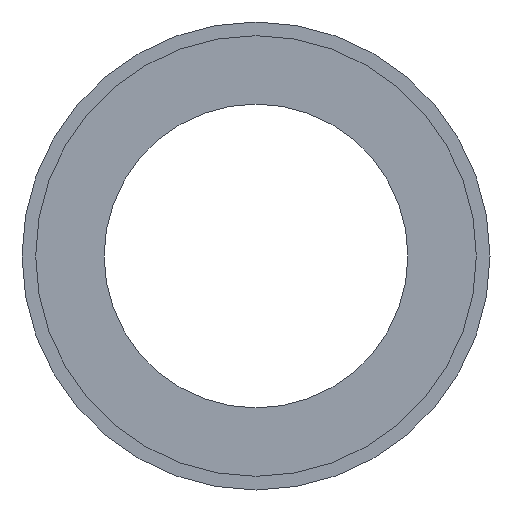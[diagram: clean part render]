
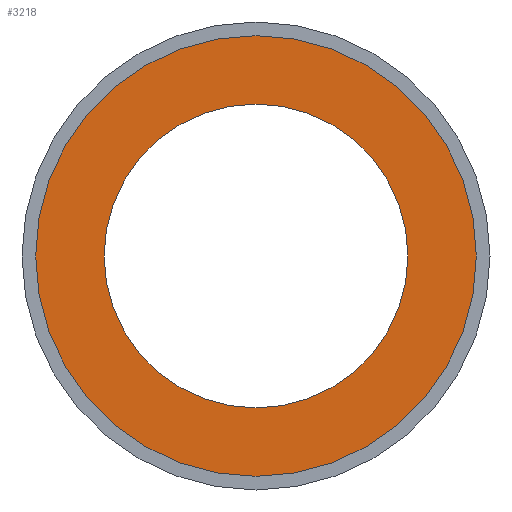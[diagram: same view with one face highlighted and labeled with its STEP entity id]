
A CAD part, front view. The second image highlights one B-rep face of the part: STEP entity #3218.
In plain terms, the highlighted planar face has unit normal (0, -1, 0).
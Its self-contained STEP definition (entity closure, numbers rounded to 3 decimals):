
#83 = DIRECTION ( 'NONE',  ( 0., 0., -1. ) ) ;
#109 = AXIS2_PLACEMENT_3D ( 'NONE', #2482, #1340, #2188 ) ;
#225 = EDGE_CURVE ( 'NONE', #1932, #2365, #2649, .T. ) ;
#235 = PLANE ( 'NONE',  #3624 ) ;
#329 = EDGE_LOOP ( 'NONE', ( #3721, #3509 ) ) ;
#513 = DIRECTION ( 'NONE',  ( 0., 0., 1. ) ) ;
#538 = CARTESIAN_POINT ( 'NONE',  ( 0., -22., 50. ) ) ;
#620 = FACE_OUTER_BOUND ( 'NONE', #329, .T. ) ;
#802 = EDGE_CURVE ( 'NONE', #2365, #1932, #1147, .T. ) ;
#809 = DIRECTION ( 'NONE',  ( 0., 1., 0. ) ) ;
#822 = AXIS2_PLACEMENT_3D ( 'NONE', #2473, #3067, #2172 ) ;
#1127 = VERTEX_POINT ( 'NONE', #1360 ) ;
#1128 = EDGE_CURVE ( 'NONE', #1872, #1127, #3600, .T. ) ;
#1147 = CIRCLE ( 'NONE', #1639, 50. ) ;
#1201 = FACE_BOUND ( 'NONE', #1742, .T. ) ;
#1239 = CARTESIAN_POINT ( 'NONE',  ( 0., -22., 72.5 ) ) ;
#1340 = DIRECTION ( 'NONE',  ( 0., -1., 0. ) ) ;
#1358 = ORIENTED_EDGE ( 'NONE', *, *, #802, .F. ) ;
#1360 = CARTESIAN_POINT ( 'NONE',  ( 0., -22., -72.5 ) ) ;
#1560 = DIRECTION ( 'NONE',  ( 0., -1., 0. ) ) ;
#1639 = AXIS2_PLACEMENT_3D ( 'NONE', #3513, #1834, #83 ) ;
#1742 = EDGE_LOOP ( 'NONE', ( #2544, #1358 ) ) ;
#1821 = AXIS2_PLACEMENT_3D ( 'NONE', #2424, #1560, #1866 ) ;
#1834 = DIRECTION ( 'NONE',  ( 0., -1., 0. ) ) ;
#1866 = DIRECTION ( 'NONE',  ( 0., 0., -1. ) ) ;
#1872 = VERTEX_POINT ( 'NONE', #1239 ) ;
#1932 = VERTEX_POINT ( 'NONE', #2382 ) ;
#2172 = DIRECTION ( 'NONE',  ( 0., 0., -1. ) ) ;
#2188 = DIRECTION ( 'NONE',  ( 0., 0., -1. ) ) ;
#2365 = VERTEX_POINT ( 'NONE', #3636 ) ;
#2382 = CARTESIAN_POINT ( 'NONE',  ( 0., -22., -50. ) ) ;
#2424 = CARTESIAN_POINT ( 'NONE',  ( 0., -22., 0. ) ) ;
#2473 = CARTESIAN_POINT ( 'NONE',  ( 0., -22., 0. ) ) ;
#2482 = CARTESIAN_POINT ( 'NONE',  ( 0., -22., 0. ) ) ;
#2544 = ORIENTED_EDGE ( 'NONE', *, *, #225, .F. ) ;
#2649 = CIRCLE ( 'NONE', #1821, 50. ) ;
#2795 = CIRCLE ( 'NONE', #109, 72.5 ) ;
#3067 = DIRECTION ( 'NONE',  ( 0., -1., 0. ) ) ;
#3086 = EDGE_CURVE ( 'NONE', #1127, #1872, #2795, .T. ) ;
#3218 = ADVANCED_FACE ( 'NONE', ( #1201, #620 ), #235, .F. ) ;
#3509 = ORIENTED_EDGE ( 'NONE', *, *, #1128, .T. ) ;
#3513 = CARTESIAN_POINT ( 'NONE',  ( 0., -22., 0. ) ) ;
#3600 = CIRCLE ( 'NONE', #822, 72.5 ) ;
#3624 = AXIS2_PLACEMENT_3D ( 'NONE', #538, #809, #513 ) ;
#3636 = CARTESIAN_POINT ( 'NONE',  ( 0., -22., 50. ) ) ;
#3721 = ORIENTED_EDGE ( 'NONE', *, *, #3086, .T. ) ;
